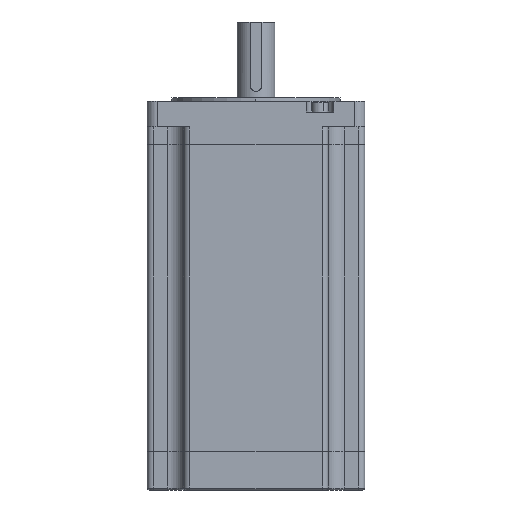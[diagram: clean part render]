
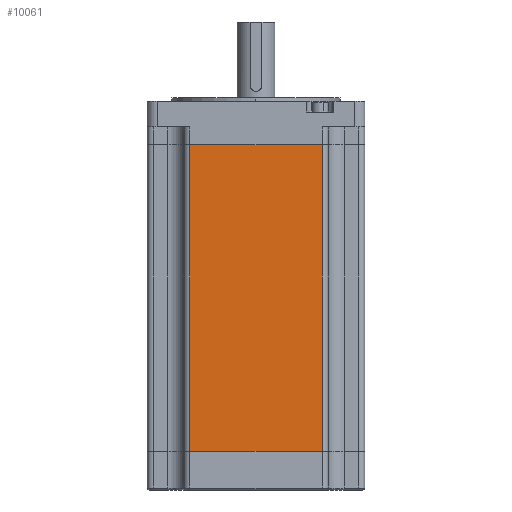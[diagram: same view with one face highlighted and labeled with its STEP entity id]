
A CAD part, left-side view. The second image highlights one B-rep face of the part: STEP entity #10061.
In plain terms, the highlighted planar face has unit normal (-1, 0, 0).
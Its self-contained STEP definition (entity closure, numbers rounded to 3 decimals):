
#280 = ORIENTED_EDGE ( 'NONE', *, *, #10139, .T. ) ;
#763 = DIRECTION ( 'NONE',  ( 0., -1., 0. ) ) ;
#886 = PLANE ( 'NONE',  #7113 ) ;
#966 = CARTESIAN_POINT ( 'NONE',  ( -55., -55., 0. ) ) ;
#1255 = VECTOR ( 'NONE', #6143, 1000. ) ;
#1882 = LINE ( 'NONE', #5738, #10372 ) ;
#1891 = CARTESIAN_POINT ( 'NONE',  ( -55., -55., 155. ) ) ;
#2675 = CARTESIAN_POINT ( 'NONE',  ( -55., 33.5, 0. ) ) ;
#2728 = DIRECTION ( 'NONE',  ( 0., 0., -1. ) ) ;
#2747 = FACE_OUTER_BOUND ( 'NONE', #7662, .T. ) ;
#2812 = VERTEX_POINT ( 'NONE', #2675 ) ;
#3099 = ORIENTED_EDGE ( 'NONE', *, *, #9281, .F. ) ;
#3385 = CARTESIAN_POINT ( 'NONE',  ( -55., 33.5, 155. ) ) ;
#3808 = VERTEX_POINT ( 'NONE', #3385 ) ;
#4087 = DIRECTION ( 'NONE',  ( 0., 0., 1. ) ) ;
#4873 = ORIENTED_EDGE ( 'NONE', *, *, #4939, .T. ) ;
#4897 = VERTEX_POINT ( 'NONE', #7759 ) ;
#4939 = EDGE_CURVE ( 'NONE', #3808, #2812, #5876, .T. ) ;
#5628 = CARTESIAN_POINT ( 'NONE',  ( -55., -33.5, 0. ) ) ;
#5693 = CARTESIAN_POINT ( 'NONE',  ( -55., -55., 155. ) ) ;
#5738 = CARTESIAN_POINT ( 'NONE',  ( -55., -33.5, 155. ) ) ;
#5876 = LINE ( 'NONE', #7799, #1255 ) ;
#5905 = DIRECTION ( 'NONE',  ( 0., -1., 0. ) ) ;
#6143 = DIRECTION ( 'NONE',  ( 0., 0., -1. ) ) ;
#7113 = AXIS2_PLACEMENT_3D ( 'NONE', #1891, #7646, #2728 ) ;
#7646 = DIRECTION ( 'NONE',  ( 1., 0., 0. ) ) ;
#7662 = EDGE_LOOP ( 'NONE', ( #280, #7786, #3099, #4873 ) ) ;
#7759 = CARTESIAN_POINT ( 'NONE',  ( -55., -33.5, 155. ) ) ;
#7786 = ORIENTED_EDGE ( 'NONE', *, *, #8111, .T. ) ;
#7799 = CARTESIAN_POINT ( 'NONE',  ( -55., 33.5, 155. ) ) ;
#8111 = EDGE_CURVE ( 'NONE', #8700, #4897, #1882, .T. ) ;
#8147 = LINE ( 'NONE', #966, #10321 ) ;
#8543 = VECTOR ( 'NONE', #763, 1000. ) ;
#8700 = VERTEX_POINT ( 'NONE', #5628 ) ;
#9281 = EDGE_CURVE ( 'NONE', #3808, #4897, #10474, .T. ) ;
#10061 = ADVANCED_FACE ( 'NONE', ( #2747 ), #886, .F. ) ;
#10139 = EDGE_CURVE ( 'NONE', #2812, #8700, #8147, .T. ) ;
#10321 = VECTOR ( 'NONE', #5905, 1000. ) ;
#10372 = VECTOR ( 'NONE', #4087, 1000. ) ;
#10474 = LINE ( 'NONE', #5693, #8543 ) ;
